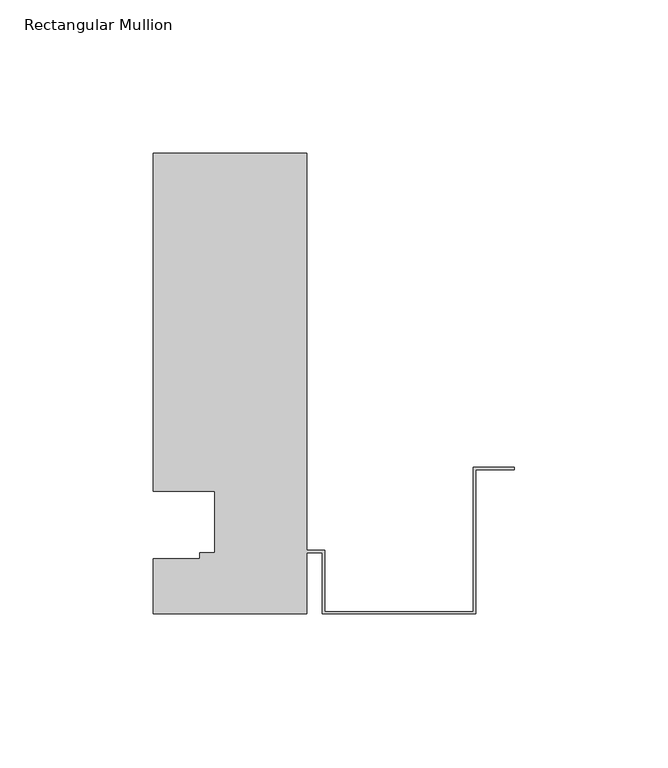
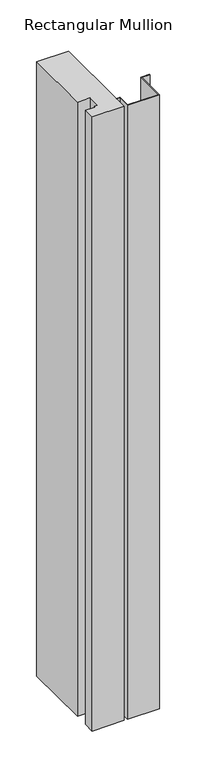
"""IFC4 building model written with IfcOpenShell, lengths in millimetres: member geometry, Rectangular Mullion : TR_CW_ALU_border_TR."""

from ifc_helpers import new_model, si_unit, frame, origin, place, context, project, spatial, polyline, outline, extrude, source, transform, mapped, element, save


def rectangular_mullion_ec726168(model_context):
    return source(origin(), model_context, "Body", "SweptSolid", [
        extrude(outline(polyline([(-117.5, 0.0), (-117.5, 18.0204111), (-102.5, 18.0204111), (-102.5, 20.0), (-97.5, 20.0), (-97.5, 40.0), (-117.5, 40.0), (-117.5, 150.0), (-67.5, 150.0), (-67.5, 20.8), (-61.7, 20.8), (-61.7, 0.8), (-13.3, 0.8), (-13.3, 47.8), (0.0, 47.8), (0.0, 47.0), (-12.5, 47.0), (-12.5, 0.0), (-62.5, 0.0), (-62.5, 20.0), (-67.5, 20.0), (-67.5, 0.0), (-117.5, 0.0)])), frame((0.0, 0.0, -1015.0), z_axis=(0.0, 0.0, 1.0), x_axis=(1.0, 0.0, 0.0)), (0.0, 0.0, 1.0), 1015.0),
    ])


if __name__ == "__main__":
    model = new_model("IFC4")
    model_context = context("Model", 3, world=origin())
    ifc_project = project(units=[si_unit("LENGTHUNIT", "METRE", prefix="MILLI")], contexts=[model_context])
    site = spatial("IfcSite", under=ifc_project)
    building = spatial("IfcBuilding", under=site)
    placement = place(None, origin())
    rectangular_mullion_shape = rectangular_mullion_ec726168(model_context)
    element("IfcMember", 1, ObjectType="Rectangular Mullion : TR_CW_ALU_border_TR", at=placement, inside=building, context=model_context, shape_type="MappedRepresentation", body=[
        mapped(rectangular_mullion_shape, transform((0.0, 0.0, 0.0), x_axis=(1.0, 0.0, 0.0), y_axis=(0.0, 1.0, 0.0), z_axis=(0.0, 0.0, 1.0))),
    ])
    save(model, "model.ifc")
